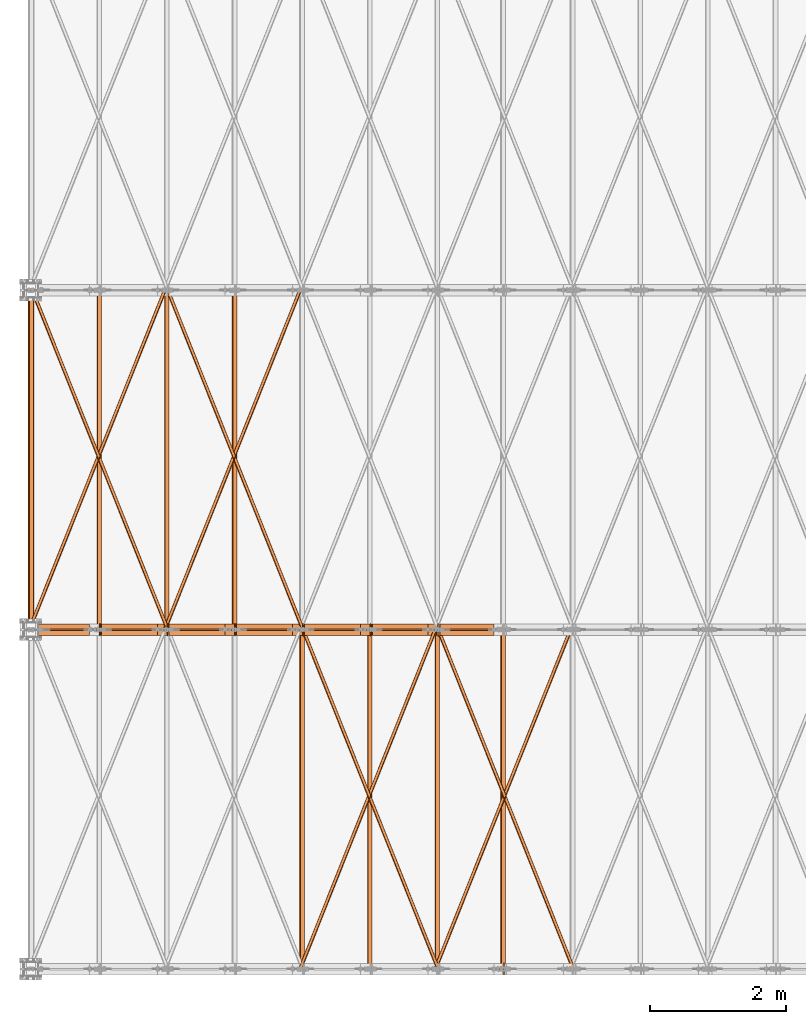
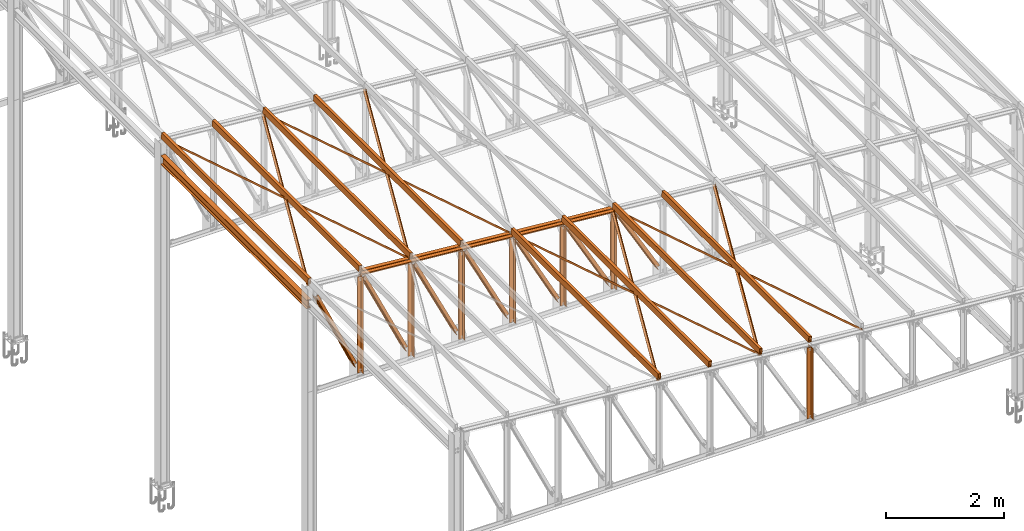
# One storey, part 232 of 251: 47 proxies.
"""IFC4 building model written with IfcOpenShell, lengths in metres."""

from ifc_helpers import new_model, si_unit, frame, frame_2d, origin_with_axes, origin_2d_with_axis, place, context, project, spatial, polyline, hollow_rectangle, i_section, l_section, outline, extrude, clip, halfspace, material, material_profile, profile_set, profile_usage, type_object, element, save


model = new_model("IFC4")

# Units and contexts
model_context = context("Model", 3, precision=1e-05, world=origin_with_axes())
ifc_project = project(units=[si_unit("LENGTHUNIT", "METRE"), si_unit("AREAUNIT", "SQUARE_METRE"), si_unit("VOLUMEUNIT", "CUBIC_METRE"), si_unit("MASSUNIT", "GRAM", prefix="KILO"), si_unit("TIMEUNIT", "SECOND"), si_unit("PLANEANGLEUNIT", "RADIAN"), si_unit("SOLIDANGLEUNIT", "STERADIAN"), si_unit("THERMODYNAMICTEMPERATUREUNIT", "DEGREE_CELSIUS")], contexts=[model_context])

# Site, building, storey
placement_1 = place(None, origin_with_axes())
site = spatial("IfcSite", under=ifc_project, at=placement_1, Name="Italia", CompositionType="ELEMENT")
building = spatial("IfcBuilding", under=site, at=placement_1, Name="Deposito", CompositionType="ELEMENT")
storey = spatial("IfcBuildingStorey", under=building, at=placement_1, Name="Storey 0", CompositionType="ELEMENT", Elevation=0.0)

# Proxies
ifc_material = material(Name="Acciaio", Category="Acciaio")
ifc_material_profile = material_profile(ifc_material, i_section(OverallWidth=0.2, OverallDepth=0.19, WebThickness=0.006, FlangeThickness=0.01, FilletRadius=0.018, at=origin_2d_with_axis()), Name="7 PILASTRO HEA200")
ifc_profile_set = profile_set([ifc_material_profile])
ifc_profile_usage_1 = profile_usage(ifc_profile_set, cardinal=1)
member_type_1 = type_object("IfcMemberType", Name="5 2L80x8", PredefinedType="MEMBER", material=ifc_profile_usage_1)
placement_2 = place(placement_1, origin_with_axes())
proxy_1_placement = place(placement_2, origin_with_axes())
element("IfcBuildingElementProxy", 1, at=proxy_1_placement, inside=storey, type_object=member_type_1, Name="7", context=model_context, shape_type="SweptSolid", body=[
    extrude(outline(polyline([(0.0, 0.0), (-0.08, 0.0), (-0.08, 0.00800037), (-0.008, 0.00800037), (-0.008, 0.0799999), (0.0, 0.0799999), (0.0, 0.0)])), frame((13.0225, -0.005, 5.06753), z_axis=(0.0, 0.0, 1.0), x_axis=(0.0, 1.0, 0.0)), (0.0, 0.0, 1.0), 1.47286),
])
ifc_profile_usage_2 = profile_usage(ifc_profile_set, cardinal=1)
member_type_2 = type_object("IfcMemberType", Name="5 2L80x8", PredefinedType="MEMBER", material=ifc_profile_usage_2)
proxy_2_placement = place(placement_2, origin_with_axes())
element("IfcBuildingElementProxy", 2, at=proxy_2_placement, inside=storey, type_object=member_type_2, Name="7", context=model_context, shape_type="SweptSolid", body=[
    extrude(outline(polyline([(0.0, 0.0), (0.008, 0.0), (0.008, -0.0719995), (0.08, -0.0719995), (0.08, -0.0799999), (0.0, -0.0799999), (0.0, 0.0)])), frame((12.9425, 0.005, 5.06753), z_axis=(0.0, 0.0, 1.0), x_axis=(0.0, 1.0, 0.0)), (0.0, 0.0, 1.0), 1.47286),
])
ifc_profile_usage_3 = profile_usage(ifc_profile_set, cardinal=1)
member_type_3 = type_object("IfcMemberType", Name="5 2L80x8", PredefinedType="MEMBER", material=ifc_profile_usage_3)
proxy_3_placement = place(placement_2, origin_with_axes())
element("IfcBuildingElementProxy", 3, at=proxy_3_placement, inside=storey, type_object=member_type_3, Name="170002", context=model_context, shape_type="SweptSolid", body=[
    extrude(outline(polyline([(0.0, 0.0), (-0.0799999, 0.0), (-0.0799999, 0.00800037), (-0.0079999, 0.00800037), (-0.0079999, 0.0799999), (0.0, 0.0799999), (0.0, 0.0)])), frame((12.0716, 4.995, 6.57981), z_axis=(0.496024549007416, 0.0, -0.868308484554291), x_axis=(0.0, 1.0, 0.0)), (0.0, 0.0, 1.0), 1.5955),
])
ifc_profile_usage_4 = profile_usage(ifc_profile_set, cardinal=1)
member_type_4 = type_object("IfcMemberType", Name="5 2L80x8", PredefinedType="MEMBER", material=ifc_profile_usage_4)
proxy_4_placement = place(placement_2, origin_with_axes())
element("IfcBuildingElementProxy", 4, at=proxy_4_placement, inside=storey, type_object=member_type_4, Name="170002", context=model_context, shape_type="SweptSolid", body=[
    extrude(outline(polyline([(0.0, 0.0), (0.0079999, 0.0), (0.0079999, -0.0719986), (0.0799999, -0.0719986), (0.0799999, -0.079999), (0.0, -0.079999), (0.0, 0.0)])), frame((12.1411, 5.005, 6.6195), z_axis=(0.496024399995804, 0.0, -0.868308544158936), x_axis=(0.0, 1.0, 0.0)), (0.0, 0.0, 1.0), 1.59551),
])
ifc_profile_usage_5 = profile_usage(ifc_profile_set, cardinal=2)
member_type_5 = type_object("IfcMemberType", Name="5 2L80x8", PredefinedType="MEMBER", material=ifc_profile_usage_5)
proxy_5_placement = place(placement_2, origin_with_axes())
element("IfcBuildingElementProxy", 5, at=proxy_5_placement, inside=storey, type_object=member_type_5, Name="230072", context=model_context, shape_type="SweptSolid", body=[
    extrude(outline(polyline([(0.0, 0.0), (0.0799999, 0.0), (0.0799999, -0.00800085), (0.0079999, -0.00800085), (0.0079999, -0.0799999), (0.0, -0.0799999), (0.0, 0.0)])), frame((7.05143, 5.005, 7.15546), z_axis=(0.996194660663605, 0.0, -0.087155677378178), x_axis=(0.0, 1.0, 0.0)), (0.0, 0.0, 1.0), 4.99498),
])
ifc_profile_usage_6 = profile_usage(ifc_profile_set, cardinal=2)
member_type_6 = type_object("IfcMemberType", Name="5 2L80x8", PredefinedType="MEMBER", material=ifc_profile_usage_6)
proxy_6_placement = place(placement_2, origin_with_axes())
element("IfcBuildingElementProxy", 6, at=proxy_6_placement, inside=storey, type_object=member_type_6, Name="230072", context=model_context, shape_type="SweptSolid", body=[
    extrude(outline(polyline([(0.0, 0.0), (-0.0079999, 0.0), (-0.0079999, 0.0719991), (-0.0799999, 0.0719991), (-0.0799999, 0.0799994), (0.0, 0.0799994), (0.0, 0.0)])), frame((7.04446, 4.995, 7.07576), z_axis=(0.99619472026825, 0.0, -0.087155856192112), x_axis=(0.0, 1.0, 0.0)), (0.0, 0.0, 1.0), 4.99498),
])
ifc_profile_usage_7 = profile_usage(ifc_profile_set, cardinal=1)
member_type_7 = type_object("IfcMemberType", Name="5 2L80x8", PredefinedType="MEMBER", material=ifc_profile_usage_7)
proxy_7_placement = place(placement_2, origin_with_axes())
element("IfcBuildingElementProxy", 7, at=proxy_7_placement, inside=storey, type_object=member_type_7, Name="24", context=model_context, shape_type="SweptSolid", body=[
    extrude(outline(polyline([(0.0, 0.0), (-0.0799999, 0.0), (-0.0799999, 0.00800037), (-0.0079999, 0.00800037), (-0.0079999, 0.0799999), (0.0, 0.0799999), (0.0, 0.0)])), frame((12.053, 4.995, 5.06753), z_axis=(0.0, 0.0, 1.0), x_axis=(0.0, 1.0, 0.0)), (0.0, 0.0, 1.0), 1.55988),
])
ifc_profile_usage_8 = profile_usage(ifc_profile_set, cardinal=1)
member_type_8 = type_object("IfcMemberType", Name="5 2L80x8", PredefinedType="MEMBER", material=ifc_profile_usage_8)
proxy_8_placement = place(placement_2, origin_with_axes())
element("IfcBuildingElementProxy", 8, at=proxy_8_placement, inside=storey, type_object=member_type_8, Name="24", context=model_context, shape_type="SweptSolid", body=[
    extrude(outline(polyline([(0.0, 0.0), (0.0079999, 0.0), (0.0079999, -0.0719995), (0.0799999, -0.0719995), (0.0799999, -0.0799999), (0.0, -0.0799999), (0.0, 0.0)])), frame((11.973, 5.005, 5.06753), z_axis=(0.0, 0.0, 1.0), x_axis=(0.0, 1.0, 0.0)), (0.0, 0.0, 1.0), 1.55988),
])
ifc_profile_usage_9 = profile_usage(ifc_profile_set, cardinal=1)
member_type_9 = type_object("IfcMemberType", Name="5 2L80x8", PredefinedType="MEMBER", material=ifc_profile_usage_9)
proxy_9_placement = place(placement_2, origin_with_axes())
element("IfcBuildingElementProxy", 9, at=proxy_9_placement, inside=storey, type_object=member_type_9, Name="180002", context=model_context, shape_type="SweptSolid", body=[
    extrude(outline(polyline([(0.0, 0.0), (-0.0799999, 0.0), (-0.0799999, 0.00799942), (-0.0079999, 0.00799942), (-0.0079999, 0.0799999), (0.0, 0.0799999), (0.0, 0.0)])), frame((11.0734, 4.995, 6.66808), z_axis=(0.487459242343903, 0.0, -0.873145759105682), x_axis=(0.0, 1.0, 0.0)), (0.0, 0.0, 1.0), 1.68149),
])
ifc_profile_usage_10 = profile_usage(ifc_profile_set, cardinal=1)
member_type_10 = type_object("IfcMemberType", Name="5 2L80x8", PredefinedType="MEMBER", material=ifc_profile_usage_10)
proxy_10_placement = place(placement_2, origin_with_axes())
element("IfcBuildingElementProxy", 10, at=proxy_10_placement, inside=storey, type_object=member_type_10, Name="180002", context=model_context, shape_type="SweptSolid", body=[
    extrude(outline(polyline([(0.0, 0.0), (0.0079999, 0.0), (0.0079999, -0.0719986), (0.0799999, -0.0719986), (0.0799999, -0.079998), (0.0, -0.079998), (0.0, 0.0)])), frame((11.1433, 5.005, 6.70707), z_axis=(0.487459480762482, 0.0, -0.873145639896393), x_axis=(0.0, 1.0, 0.0)), (0.0, 0.0, 1.0), 1.68149),
])
ifc_profile_usage_11 = profile_usage(ifc_profile_set, cardinal=1)
member_type_11 = type_object("IfcMemberType", Name="5 2L80x8", PredefinedType="MEMBER", material=ifc_profile_usage_11)
proxy_11_placement = place(placement_2, origin_with_axes())
element("IfcBuildingElementProxy", 11, at=proxy_11_placement, inside=storey, type_object=member_type_11, Name="23", context=model_context, shape_type="SweptSolid", body=[
    extrude(outline(polyline([(0.0, 0.0), (-0.0799999, 0.0), (-0.0799999, 0.00800037), (-0.0079999, 0.00800037), (-0.0079999, 0.0799999), (0.0, 0.0799999), (0.0, 0.0)])), frame((11.0568, 4.995, 5.06753), z_axis=(0.0, 0.0, 1.0), x_axis=(0.0, 1.0, 0.0)), (0.0, 0.0, 1.0), 1.64711),
])
ifc_profile_usage_12 = profile_usage(ifc_profile_set, cardinal=1)
member_type_12 = type_object("IfcMemberType", Name="5 2L80x8", PredefinedType="MEMBER", material=ifc_profile_usage_12)
proxy_12_placement = place(placement_2, origin_with_axes())
element("IfcBuildingElementProxy", 12, at=proxy_12_placement, inside=storey, type_object=member_type_12, Name="23", context=model_context, shape_type="SweptSolid", body=[
    extrude(outline(polyline([(0.0, 0.0), (0.0079999, 0.0), (0.0079999, -0.0719995), (0.0799999, -0.0719995), (0.0799999, -0.0799999), (0.0, -0.0799999), (0.0, 0.0)])), frame((10.9768, 5.005, 5.06753), z_axis=(0.0, 0.0, 1.0), x_axis=(0.0, 1.0, 0.0)), (0.0, 0.0, 1.0), 1.64711),
])
ifc_profile_usage_13 = profile_usage(ifc_profile_set, cardinal=1)
member_type_13 = type_object("IfcMemberType", Name="5 2L80x8", PredefinedType="MEMBER", material=ifc_profile_usage_13)
proxy_13_placement = place(placement_2, origin_with_axes())
element("IfcBuildingElementProxy", 13, at=proxy_13_placement, inside=storey, type_object=member_type_13, Name="190002", context=model_context, shape_type="SweptSolid", body=[
    extrude(outline(polyline([(0.0, 0.0), (-0.0799999, 0.0), (-0.0799999, 0.00799942), (-0.0079999, 0.00799942), (-0.0079999, 0.0799999), (0.0, 0.0799999), (0.0, 0.0)])), frame((10.0736, 4.995, 6.75689), z_axis=(0.469864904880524, 0.0, -0.882738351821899), x_axis=(0.0, 1.0, 0.0)), (0.0, 0.0, 1.0), 1.75054),
])
ifc_profile_usage_14 = profile_usage(ifc_profile_set, cardinal=1)
member_type_14 = type_object("IfcMemberType", Name="5 2L80x8", PredefinedType="MEMBER", material=ifc_profile_usage_14)
proxy_14_placement = place(placement_2, origin_with_axes())
element("IfcBuildingElementProxy", 14, at=proxy_14_placement, inside=storey, type_object=member_type_14, Name="190002", context=model_context, shape_type="SweptSolid", body=[
    extrude(outline(polyline([(0.0, 0.0), (0.0079999, 0.0), (0.0079999, -0.0720005), (0.0799999, -0.0720005), (0.0799999, -0.0799999), (0.0, -0.0799999), (0.0, 0.0)])), frame((10.1442, 5.005, 6.79448), z_axis=(0.469864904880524, 0.0, -0.882738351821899), x_axis=(0.0, 1.0, 0.0)), (0.0, 0.0, 1.0), 1.75054),
])
ifc_profile_usage_15 = profile_usage(ifc_profile_set, cardinal=1)
member_type_15 = type_object("IfcMemberType", Name="5 2L80x8", PredefinedType="MEMBER", material=ifc_profile_usage_15)
proxy_15_placement = place(placement_2, origin_with_axes())
element("IfcBuildingElementProxy", 15, at=proxy_15_placement, inside=storey, type_object=member_type_15, Name="22", context=model_context, shape_type="SweptSolid", body=[
    extrude(outline(polyline([(0.0, 0.0), (-0.0799999, 0.0), (-0.0799999, 0.00800037), (-0.0079999, 0.00800037), (-0.0079999, 0.0799999), (0.0, 0.0799999), (0.0, 0.0)])), frame((10.0606, 4.995, 5.06753), z_axis=(0.0, 0.0, 1.0), x_axis=(0.0, 1.0, 0.0)), (0.0, 0.0, 1.0), 1.73426),
])
ifc_profile_usage_16 = profile_usage(ifc_profile_set, cardinal=1)
member_type_16 = type_object("IfcMemberType", Name="5 2L80x8", PredefinedType="MEMBER", material=ifc_profile_usage_16)
proxy_16_placement = place(placement_2, origin_with_axes())
element("IfcBuildingElementProxy", 16, at=proxy_16_placement, inside=storey, type_object=member_type_16, Name="22", context=model_context, shape_type="SweptSolid", body=[
    extrude(outline(polyline([(0.0, 0.0), (0.0079999, 0.0), (0.0079999, -0.0719995), (0.0799999, -0.0719995), (0.0799999, -0.0799999), (0.0, -0.0799999), (0.0, 0.0)])), frame((9.98057, 5.005, 5.06753), z_axis=(0.0, 0.0, 1.0), x_axis=(0.0, 1.0, 0.0)), (0.0, 0.0, 1.0), 1.73426),
])
ifc_profile_usage_17 = profile_usage(ifc_profile_set, cardinal=1)
member_type_17 = type_object("IfcMemberType", Name="5 2L80x8", PredefinedType="MEMBER", material=ifc_profile_usage_17)
proxy_17_placement = place(placement_2, origin_with_axes())
element("IfcBuildingElementProxy", 17, at=proxy_17_placement, inside=storey, type_object=member_type_17, Name="200002", context=model_context, shape_type="SweptSolid", body=[
    extrude(outline(polyline([(0.0, 0.0), (-0.0799999, 0.0), (-0.0799999, 0.00800133), (-0.0079999, 0.00800133), (-0.0079999, 0.0799999), (0.0, 0.0799999), (0.0, 0.0)])), frame((9.07443, 4.995, 6.84501), z_axis=(0.453332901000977, 0.0, -0.891341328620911), x_axis=(0.0, 1.0, 0.0)), (0.0, 0.0, 1.0), 1.81939),
])
ifc_profile_usage_18 = profile_usage(ifc_profile_set, cardinal=1)
member_type_18 = type_object("IfcMemberType", Name="5 2L80x8", PredefinedType="MEMBER", material=ifc_profile_usage_18)
proxy_18_placement = place(placement_2, origin_with_axes())
element("IfcBuildingElementProxy", 18, at=proxy_18_placement, inside=storey, type_object=member_type_18, Name="200002", context=model_context, shape_type="SweptSolid", body=[
    extrude(outline(polyline([(0.0, 0.0), (0.0079999, 0.0), (0.0079999, -0.0719986), (0.0799999, -0.0719986), (0.0799999, -0.079999), (0.0, -0.079999), (0.0, 0.0)])), frame((9.14573, 5.005, 6.88128), z_axis=(0.453332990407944, 0.0, -0.891341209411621), x_axis=(0.0, 1.0, 0.0)), (0.0, 0.0, 1.0), 1.81938),
])
ifc_profile_usage_19 = profile_usage(ifc_profile_set, cardinal=1)
member_type_19 = type_object("IfcMemberType", Name="5 2L80x8", PredefinedType="MEMBER", material=ifc_profile_usage_19)
proxy_19_placement = place(placement_2, origin_with_axes())
element("IfcBuildingElementProxy", 19, at=proxy_19_placement, inside=storey, type_object=member_type_19, Name="21", context=model_context, shape_type="SweptSolid", body=[
    extrude(outline(polyline([(0.0, 0.0), (-0.0799999, 0.0), (-0.0799999, 0.00800037), (-0.0079999, 0.00800037), (-0.0079999, 0.0799999), (0.0, 0.0799999), (0.0, 0.0)])), frame((9.06438, 4.995, 5.06753), z_axis=(0.0, 0.0, 1.0), x_axis=(0.0, 1.0, 0.0)), (0.0, 0.0, 1.0), 1.82142),
])
ifc_profile_usage_20 = profile_usage(ifc_profile_set, cardinal=1)
member_type_20 = type_object("IfcMemberType", Name="5 2L80x8", PredefinedType="MEMBER", material=ifc_profile_usage_20)
proxy_20_placement = place(placement_2, origin_with_axes())
element("IfcBuildingElementProxy", 20, at=proxy_20_placement, inside=storey, type_object=member_type_20, Name="21", context=model_context, shape_type="SweptSolid", body=[
    extrude(outline(polyline([(0.0, 0.0), (0.0079999, 0.0), (0.0079999, -0.0719995), (0.0799999, -0.0719995), (0.0799999, -0.0799999), (0.0, -0.0799999), (0.0, 0.0)])), frame((8.98438, 5.005, 5.06753), z_axis=(0.0, 0.0, 1.0), x_axis=(0.0, 1.0, 0.0)), (0.0, 0.0, 1.0), 1.82142),
])
ifc_profile_usage_21 = profile_usage(ifc_profile_set, cardinal=1)
member_type_21 = type_object("IfcMemberType", Name="5 2L80x8", PredefinedType="MEMBER", material=ifc_profile_usage_21)
proxy_21_placement = place(placement_2, origin_with_axes())
element("IfcBuildingElementProxy", 21, at=proxy_21_placement, inside=storey, type_object=member_type_21, Name="210002", context=model_context, shape_type="SweptSolid", body=[
    extrude(outline(polyline([(0.0, 0.0), (-0.0799999, 0.0), (-0.0799999, 0.00799942), (-0.0079999, 0.00799942), (-0.0079999, 0.0799999), (0.0, 0.0799999), (0.0, 0.0)])), frame((8.07823, 4.995, 6.92755), z_axis=(0.437787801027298, 0.0, -0.89907830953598), x_axis=(0.0, 1.0, 0.0)), (0.0, 0.0, 1.0), 1.88258),
])
ifc_profile_usage_22 = profile_usage(ifc_profile_set, cardinal=1)
member_type_22 = type_object("IfcMemberType", Name="5 2L80x8", PredefinedType="MEMBER", material=ifc_profile_usage_22)
proxy_22_placement = place(placement_2, origin_with_axes())
element("IfcBuildingElementProxy", 22, at=proxy_22_placement, inside=storey, type_object=member_type_22, Name="210002", context=model_context, shape_type="SweptSolid", body=[
    extrude(outline(polyline([(0.0, 0.0), (0.0079999, 0.0), (0.0079999, -0.0719995), (0.0799999, -0.0719995), (0.0799999, -0.0799999), (0.0, -0.0799999), (0.0, 0.0)])), frame((8.15016, 5.005, 6.96258), z_axis=(0.437788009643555, 0.0, -0.899078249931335), x_axis=(0.0, 1.0, 0.0)), (0.0, 0.0, 1.0), 1.88258),
])
ifc_profile_usage_23 = profile_usage(ifc_profile_set, cardinal=1)
member_type_23 = type_object("IfcMemberType", Name="5 2L80x8", PredefinedType="MEMBER", material=ifc_profile_usage_23)
proxy_23_placement = place(placement_2, origin_with_axes())
element("IfcBuildingElementProxy", 23, at=proxy_23_placement, inside=storey, type_object=member_type_23, Name="20", context=model_context, shape_type="SweptSolid", body=[
    extrude(outline(polyline([(0.0, 0.0), (-0.0799999, 0.0), (-0.0799999, 0.00800037), (-0.0079999, 0.00800037), (-0.0079999, 0.0800004), (0.0, 0.0800004), (0.0, 0.0)])), frame((8.06818, 4.995, 5.06753), z_axis=(0.0, 0.0, 1.0), x_axis=(0.0, 1.0, 0.0)), (0.0, 0.0, 1.0), 1.90857),
])
ifc_profile_usage_24 = profile_usage(ifc_profile_set, cardinal=1)
member_type_24 = type_object("IfcMemberType", Name="5 2L80x8", PredefinedType="MEMBER", material=ifc_profile_usage_24)
proxy_24_placement = place(placement_2, origin_with_axes())
element("IfcBuildingElementProxy", 24, at=proxy_24_placement, inside=storey, type_object=member_type_24, Name="20", context=model_context, shape_type="SweptSolid", body=[
    extrude(outline(polyline([(0.0, 0.0), (0.0079999, 0.0), (0.0079999, -0.072), (0.0799999, -0.072), (0.0799999, -0.0800004), (0.0, -0.0800004), (0.0, 0.0)])), frame((7.98818, 5.005, 5.06753), z_axis=(0.0, 0.0, 1.0), x_axis=(0.0, 1.0, 0.0)), (0.0, 0.0, 1.0), 1.90857),
])
ifc_profile_usage_25 = profile_usage(ifc_profile_set, cardinal=1)
member_type_25 = type_object("IfcMemberType", Name="5 2L80x8", PredefinedType="MEMBER", material=ifc_profile_usage_25)
proxy_25_placement = place(placement_2, origin_with_axes())
element("IfcBuildingElementProxy", 25, at=proxy_25_placement, inside=storey, type_object=member_type_25, Name="220002", context=model_context, shape_type="SweptSolid", body=[
    extrude(outline(polyline([(0.0, 0.0), (-0.0799999, 0.0), (-0.0799999, 0.00800037), (-0.0079999, 0.00800037), (-0.0079999, 0.0800009), (0.0, 0.0800009), (0.0, 0.0)])), frame((7.08204, 4.995, 7.01008), z_axis=(0.423158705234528, 0.0, -0.906055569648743), x_axis=(0.0, 1.0, 0.0)), (0.0, 0.0, 1.0), 1.94634),
])
ifc_profile_usage_26 = profile_usage(ifc_profile_set, cardinal=1)
member_type_26 = type_object("IfcMemberType", Name="5 2L80x8", PredefinedType="MEMBER", material=ifc_profile_usage_26)
proxy_26_placement = place(placement_2, origin_with_axes())
element("IfcBuildingElementProxy", 26, at=proxy_26_placement, inside=storey, type_object=member_type_26, Name="220002", context=model_context, shape_type="SweptSolid", body=[
    extrude(outline(polyline([(0.0, 0.0), (0.0079999, 0.0), (0.0079999, -0.0720005), (0.0799999, -0.0720005), (0.0799999, -0.0800009), (0.0, -0.0800009), (0.0, 0.0)])), frame((7.15452, 5.005, 7.04394), z_axis=(0.423158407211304, 0.0, -0.906055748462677), x_axis=(0.0, 1.0, 0.0)), (0.0, 0.0, 1.0), 1.94634),
])
ifc_profile_usage_27 = profile_usage(ifc_profile_set, cardinal=1)
member_type_27 = type_object("IfcMemberType", Name="5 2L80x8", PredefinedType="MEMBER", material=ifc_profile_usage_27)
proxy_27_placement = place(placement_2, origin_with_axes())
element("IfcBuildingElementProxy", 27, at=proxy_27_placement, inside=storey, type_object=member_type_27, Name="19", context=model_context, shape_type="SweptSolid", body=[
    extrude(outline(polyline([(0.0, 0.0), (-0.0799999, 0.0), (-0.0799999, 0.0079999), (-0.0079999, 0.0079999), (-0.0079999, 0.0799999), (0.0, 0.0799999), (0.0, 0.0)])), frame((7.07199, 4.995, 5.06753), z_axis=(0.0, 0.0, 1.0), x_axis=(0.0, 1.0, 0.0)), (0.0, 0.0, 1.0), 1.99573),
])
ifc_profile_usage_28 = profile_usage(ifc_profile_set, cardinal=1)
member_type_28 = type_object("IfcMemberType", Name="5 2L80x8", PredefinedType="MEMBER", material=ifc_profile_usage_28)
proxy_28_placement = place(placement_2, origin_with_axes())
element("IfcBuildingElementProxy", 28, at=proxy_28_placement, inside=storey, type_object=member_type_28, Name="19", context=model_context, shape_type="SweptSolid", body=[
    extrude(outline(polyline([(0.0, 0.0), (0.0079999, 0.0), (0.0079999, -0.072), (0.0799999, -0.072), (0.0799999, -0.0799999), (0.0, -0.0799999), (0.0, 0.0)])), frame((6.99199, 5.005, 5.06753), z_axis=(0.0, 0.0, 1.0), x_axis=(0.0, 1.0, 0.0)), (0.0, 0.0, 1.0), 1.99573),
])
ifc_profile_usage_29 = profile_usage(ifc_profile_set, cardinal=1)
member_type_29 = type_object("IfcMemberType", Name="5 2L80x8", PredefinedType="MEMBER", material=ifc_profile_usage_29)
proxy_29_placement = place(placement_2, origin_with_axes())
element("IfcBuildingElementProxy", 29, at=proxy_29_placement, inside=storey, type_object=member_type_29, Name="230002", context=model_context, shape_type="SweptSolid", body=[
    extrude(outline(polyline([(0.0, 0.0), (-0.0799999, 0.0), (-0.0799999, 0.00799942), (-0.0079999, 0.00799942), (-0.0079999, 0.079999), (0.0, 0.079999), (0.0, 0.0)])), frame((6.15505, 4.995, 6.93198), z_axis=(0.410496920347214, 0.0, -0.911861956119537), x_axis=(0.0, 1.0, 0.0)), (0.0, 0.0, 1.0), 1.83665),
])
ifc_profile_usage_30 = profile_usage(ifc_profile_set, cardinal=1)
member_type_30 = type_object("IfcMemberType", Name="5 2L80x8", PredefinedType="MEMBER", material=ifc_profile_usage_30)
proxy_30_placement = place(placement_2, origin_with_axes())
element("IfcBuildingElementProxy", 30, at=proxy_30_placement, inside=storey, type_object=member_type_30, Name="230002", context=model_context, shape_type="SweptSolid", body=[
    extrude(outline(polyline([(0.0, 0.0), (0.0079999, 0.0), (0.0079999, -0.0719995), (0.0799999, -0.0719995), (0.0799999, -0.0799999), (0.0, -0.0799999), (0.0, 0.0)])), frame((6.228, 5.005, 6.96482), z_axis=(0.410497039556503, 0.0, -0.911861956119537), x_axis=(0.0, 1.0, 0.0)), (0.0, 0.0, 1.0), 1.83665),
])
ifc_profile_usage_31 = profile_usage(ifc_profile_set, cardinal=8)
member_type_31 = type_object("IfcMemberType", Name="1 RHS120x60x8", PredefinedType="MEMBER", material=ifc_profile_usage_31)
proxy_31_placement = place(placement_2, origin_with_axes())
element("IfcBuildingElementProxy", 31, at=proxy_31_placement, inside=storey, type_object=member_type_31, Name="210021", context=model_context, shape_type="SweptSolid", body=[
    extrude(hollow_rectangle(XDim=0.06, YDim=0.12, WallThickness=0.008, at=frame_2d((0.0, 0.0), x_axis=(0.996194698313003, 0.087155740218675))), frame((8.05286, 5.0, 7.1281), z_axis=(0.0, 1.0, 0.0), x_axis=(-1.0, 0.0, 0.0)), (0.0, 0.0, 1.0), 5.0),
])
ifc_profile_usage_32 = profile_usage(ifc_profile_set, cardinal=8)
member_type_32 = type_object("IfcMemberType", Name="1 RHS120x60x8", PredefinedType="MEMBER", material=ifc_profile_usage_32)
proxy_32_placement = place(placement_2, origin_with_axes())
element("IfcBuildingElementProxy", 32, at=proxy_32_placement, inside=storey, type_object=member_type_32, Name="230019", context=model_context, shape_type="SweptSolid", body=[
    extrude(hollow_rectangle(XDim=0.06, YDim=0.12, WallThickness=0.008, at=frame_2d((0.0, 0.0), x_axis=(0.996194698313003, 0.087155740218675))), frame((6.05719, 5.0, 7.30242), z_axis=(0.0, 1.0, 0.0), x_axis=(-1.0, 0.0, 0.0)), (0.0, 0.0, 1.0), 5.0),
])
ifc_profile_usage_33 = profile_usage(ifc_profile_set, cardinal=8)
member_type_33 = type_object("IfcMemberType", Name="1 RHS120x60x8", PredefinedType="MEMBER", material=ifc_profile_usage_33)
proxy_33_placement = place(placement_2, origin_with_axes())
element("IfcBuildingElementProxy", 33, at=proxy_33_placement, inside=storey, type_object=member_type_33, Name="190024", context=model_context, shape_type="SweptSolid", body=[
    extrude(hollow_rectangle(XDim=0.06, YDim=0.12, WallThickness=0.008, at=frame_2d((0.0, 0.0), x_axis=(0.996194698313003, 0.087155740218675))), frame((10.0452, 0.0, 6.95379), z_axis=(0.0, 1.0, 0.0), x_axis=(-1.0, 0.0, 0.0)), (0.0, 0.0, 1.0), 5.0),
])
ifc_profile_usage_34 = profile_usage(ifc_profile_set, cardinal=8)
member_type_34 = type_object("IfcMemberType", Name="1 RHS120x60x8", PredefinedType="MEMBER", material=ifc_profile_usage_34)
proxy_34_placement = place(placement_2, origin_with_axes())
element("IfcBuildingElementProxy", 34, at=proxy_34_placement, inside=storey, type_object=member_type_34, Name="170027", context=model_context, shape_type="SweptSolid", body=[
    extrude(hollow_rectangle(XDim=0.06, YDim=0.12, WallThickness=0.008, at=frame_2d((0.0, 0.0), x_axis=(0.996194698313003, 0.087155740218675))), frame((12.0376, 0.0, 6.77948), z_axis=(0.0, 1.0, 0.0), x_axis=(-1.0, 0.0, 0.0)), (0.0, 0.0, 1.0), 5.0),
])
ifc_profile_usage_35 = profile_usage(ifc_profile_set, cardinal=8)
member_type_35 = type_object("IfcMemberType", Name="1 RHS120x60x8", PredefinedType="MEMBER", material=ifc_profile_usage_35)
proxy_35_placement = place(placement_2, origin_with_axes())
element("IfcBuildingElementProxy", 35, at=proxy_35_placement, inside=storey, type_object=member_type_35, Name="220020", context=model_context, shape_type="SweptSolid", body=[
    extrude(hollow_rectangle(XDim=0.06, YDim=0.12, WallThickness=0.008, at=frame_2d((0.0, 0.0), x_axis=(0.996194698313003, 0.087155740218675))), frame((7.05666, 5.0, 7.21526), z_axis=(0.0, 1.0, 0.0), x_axis=(-1.0, 0.0, 0.0)), (0.0, 0.0, 1.0), 5.0),
])
ifc_profile_usage_36 = profile_usage(ifc_profile_set, cardinal=8)
member_type_36 = type_object("IfcMemberType", Name="1 RHS120x60x8", PredefinedType="MEMBER", material=ifc_profile_usage_36)
proxy_36_placement = place(placement_2, origin_with_axes())
element("IfcBuildingElementProxy", 36, at=proxy_36_placement, inside=storey, type_object=member_type_36, Name="200023", context=model_context, shape_type="SweptSolid", body=[
    extrude(hollow_rectangle(XDim=0.06, YDim=0.12, WallThickness=0.008, at=frame_2d((0.0, 0.0), x_axis=(0.996194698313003, 0.087155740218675))), frame((9.04905, 5.0, 7.04095), z_axis=(0.0, 1.0, 0.0), x_axis=(-1.0, 0.0, 0.0)), (0.0, 0.0, 1.0), 5.0),
])
ifc_profile_usage_37 = profile_usage(ifc_profile_set, cardinal=8)
member_type_37 = type_object("IfcMemberType", Name="1 RHS120x60x8", PredefinedType="MEMBER", material=ifc_profile_usage_37)
proxy_37_placement = place(placement_2, origin_with_axes())
element("IfcBuildingElementProxy", 37, at=proxy_37_placement, inside=storey, type_object=member_type_37, Name="180026", context=model_context, shape_type="SweptSolid", body=[
    extrude(hollow_rectangle(XDim=0.06, YDim=0.12, WallThickness=0.008, at=frame_2d((0.0, 0.0), x_axis=(0.996194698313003, 0.087155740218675))), frame((11.0414, 0.0, 6.86664), z_axis=(0.0, 1.0, 0.0), x_axis=(-1.0, 0.0, 0.0)), (0.0, 0.0, 1.0), 5.0),
])
ifc_profile_usage_38 = profile_usage(ifc_profile_set, cardinal=8)
member_type_38 = type_object("IfcMemberType", Name="1 RHS120x60x8", PredefinedType="MEMBER", material=ifc_profile_usage_38)
proxy_38_placement = place(placement_2, origin_with_axes())
element("IfcBuildingElementProxy", 38, at=proxy_38_placement, inside=storey, type_object=member_type_38, Name="160028", context=model_context, shape_type="SweptSolid", body=[
    extrude(hollow_rectangle(XDim=0.06, YDim=0.12, WallThickness=0.008, at=frame_2d((0.0, 0.0), x_axis=(0.996194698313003, 0.087155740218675))), frame((13.0072, 0.0, 6.69233), z_axis=(0.0, 1.0, 0.0), x_axis=(-1.0, 0.0, 0.0)), (0.0, 0.0, 1.0), 5.0),
])
ifc_profile_usage_39 = profile_usage(ifc_profile_set, cardinal=5)
member_type_39 = type_object("IfcMemberType", Name="9 ARCARECCI IPE180", PredefinedType="MEMBER", material=ifc_profile_usage_39)
proxy_39_placement = place(placement_2, frame((6.049999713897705, 2.5, 6.820181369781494), z_axis=(0.0, 0.0, 1.0), x_axis=(1.0, 0.0, 0.0)))
element("IfcBuildingElementProxy", 39, at=proxy_39_placement, inside=storey, type_object=member_type_39, Name="280019", context=model_context, shape_type="Clipping", body=[
    clip(clip(extrude(i_section(OverallWidth=0.091, OverallDepth=0.18, WebThickness=0.0053, FlangeThickness=0.008, FilletRadius=0.009, at=origin_2d_with_axis()), frame((0.0, 0.0, 0.0), z_axis=(0.0, 1.0, 0.0), x_axis=(-1.0, 0.0, 0.0)), (0.0, 0.0, 1.0), 10.0), halfspace(frame((0.0, 2.518, 0.0), z_axis=(0.0, -1.0, 0.0), x_axis=(1.0, 0.0, 0.0)), False)), halfspace(frame((0.0, 7.482, 0.0), z_axis=(0.0, -1.0, 0.0), x_axis=(1.0, 0.0, 0.0)), True)),
])
ifc_profile_usage_40 = profile_usage(ifc_profile_set, cardinal=5)
member_type_40 = type_object("IfcMemberType", Name="11 CONTROVENTI COPERTURA L50x5", PredefinedType="MEMBER", material=ifc_profile_usage_40)
proxy_40_placement = place(placement_2, origin_with_axes())
element("IfcBuildingElementProxy", 40, at=proxy_40_placement, inside=storey, type_object=member_type_40, Name="250046", context=model_context, shape_type="SweptSolid", body=[
    extrude(l_section(Depth=0.05, Width=0.05, Thickness=0.005, FilletRadius=0.007, EdgeRadius=0.0035, at=origin_2d_with_axis()), frame((6.06855, 10.0068, 7.24017), z_axis=(0.370502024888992, -0.92826771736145, -0.032361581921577), x_axis=(0.928754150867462, 0.370696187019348, 0.0)), (0.0, 0.0, 1.0), 5.38638),
])
ifc_profile_usage_41 = profile_usage(ifc_profile_set, cardinal=5)
member_type_41 = type_object("IfcMemberType", Name="11 CONTROVENTI COPERTURA L50x5", PredefinedType="MEMBER", material=ifc_profile_usage_41)
proxy_41_placement = place(placement_2, origin_with_axes())
element("IfcBuildingElementProxy", 41, at=proxy_41_placement, inside=storey, type_object=member_type_41, Name="230047", context=model_context, shape_type="SweptSolid", body=[
    extrude(l_section(Depth=0.05, Width=0.05, Thickness=0.005, FilletRadius=0.007, EdgeRadius=0.0035, at=origin_2d_with_axis()), frame((8.02732, 5.00733, 7.06586), z_axis=(0.369977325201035, 0.928476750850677, -0.032368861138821), x_axis=(-0.928963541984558, 0.370171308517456, 0.0)), (0.0, 0.0, 1.0), 5.38516),
])
ifc_profile_usage_42 = profile_usage(ifc_profile_set, cardinal=5)
member_type_42 = type_object("IfcMemberType", Name="11 CONTROVENTI COPERTURA L50x5", PredefinedType="MEMBER", material=ifc_profile_usage_42)
proxy_42_placement = place(placement_2, origin_with_axes())
element("IfcBuildingElementProxy", 42, at=proxy_42_placement, inside=storey, type_object=member_type_42, Name="170052", context=model_context, shape_type="SweptSolid", body=[
    extrude(l_section(Depth=0.05, Width=0.05, Thickness=0.005, FilletRadius=0.007, EdgeRadius=0.0035, at=origin_2d_with_axis()), frame((12.0121, 0.00732826, 6.71724), z_axis=(0.369977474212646, 0.928476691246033, -0.03236885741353), x_axis=(-0.928963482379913, 0.370171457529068, 0.0)), (0.0, 0.0, 1.0), 5.38516),
])
ifc_profile_usage_43 = profile_usage(ifc_profile_set, cardinal=5)
member_type_43 = type_object("IfcMemberType", Name="11 CONTROVENTI COPERTURA L50x5", PredefinedType="MEMBER", material=ifc_profile_usage_43)
proxy_43_placement = place(placement_2, origin_with_axes())
element("IfcBuildingElementProxy", 43, at=proxy_43_placement, inside=storey, type_object=member_type_43, Name="250054", context=model_context, shape_type="SweptSolid", body=[
    extrude(l_section(Depth=0.05, Width=0.05, Thickness=0.005, FilletRadius=0.007, EdgeRadius=0.0035, at=origin_2d_with_axis()), frame((10.0566, 5.0068, 6.89155), z_axis=(0.369977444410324, -0.928476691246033, -0.032368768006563), x_axis=(0.928963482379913, 0.370171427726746, 0.0)), (0.0, 0.0, 1.0), 5.38517),
])
ifc_profile_usage_44 = profile_usage(ifc_profile_set, cardinal=5)
member_type_44 = type_object("IfcMemberType", Name="11 CONTROVENTI COPERTURA L50x5", PredefinedType="MEMBER", material=ifc_profile_usage_44)
proxy_44_placement = place(placement_2, origin_with_axes())
element("IfcBuildingElementProxy", 44, at=proxy_44_placement, inside=storey, type_object=member_type_44, Name="230049", context=model_context, shape_type="SweptSolid", body=[
    extrude(l_section(Depth=0.05, Width=0.05, Thickness=0.005, FilletRadius=0.007, EdgeRadius=0.0035, at=origin_2d_with_axis()), frame((12.049, 5.0068, 6.71724), z_axis=(0.369977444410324, -0.928476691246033, -0.03236885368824), x_axis=(0.928963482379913, 0.370171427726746, 0.0)), (0.0, 0.0, 1.0), 5.38517),
])
ifc_profile_usage_45 = profile_usage(ifc_profile_set, cardinal=5)
member_type_45 = type_object("IfcMemberType", Name="11 CONTROVENTI COPERTURA L50x5", PredefinedType="MEMBER", material=ifc_profile_usage_45)
proxy_45_placement = place(placement_2, origin_with_axes())
element("IfcBuildingElementProxy", 45, at=proxy_45_placement, inside=storey, type_object=member_type_45, Name="190055", context=model_context, shape_type="SweptSolid", body=[
    extrude(l_section(Depth=0.05, Width=0.05, Thickness=0.005, FilletRadius=0.007, EdgeRadius=0.0035, at=origin_2d_with_axis()), frame((10.0197, 0.00732826, 6.89155), z_axis=(0.369977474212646, 0.928476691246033, -0.032368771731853), x_axis=(-0.928963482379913, 0.370171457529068, 0.0)), (0.0, 0.0, 1.0), 5.38516),
])
ifc_profile_usage_46 = profile_usage(ifc_profile_set, cardinal=5)
member_type_46 = type_object("IfcMemberType", Name="11 CONTROVENTI COPERTURA L50x5", PredefinedType="MEMBER", material=ifc_profile_usage_46)
proxy_46_placement = place(placement_2, origin_with_axes())
element("IfcBuildingElementProxy", 46, at=proxy_46_placement, inside=storey, type_object=member_type_46, Name="250054", context=model_context, shape_type="SweptSolid", body=[
    extrude(l_section(Depth=0.05, Width=0.05, Thickness=0.005, FilletRadius=0.007, EdgeRadius=0.0035, at=origin_2d_with_axis()), frame((8.06421, 10.0068, 7.06586), z_axis=(0.369977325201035, -0.928476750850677, -0.032368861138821), x_axis=(0.928963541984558, 0.370171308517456, 0.0)), (0.0, 0.0, 1.0), 5.38516),
])
ifc_profile_usage_47 = profile_usage(ifc_profile_set, cardinal=5)
member_type_47 = type_object("IfcMemberType", Name="11 CONTROVENTI COPERTURA L50x5", PredefinedType="MEMBER", material=ifc_profile_usage_47)
proxy_47_placement = place(placement_2, origin_with_axes())
element("IfcBuildingElementProxy", 47, at=proxy_47_placement, inside=storey, type_object=member_type_47, Name="230053", context=model_context, shape_type="SweptSolid", body=[
    extrude(l_section(Depth=0.05, Width=0.05, Thickness=0.005, FilletRadius=0.007, EdgeRadius=0.0035, at=origin_2d_with_axis()), frame((6.03166, 5.00734, 7.24017), z_axis=(0.37050199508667, 0.92826771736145, -0.032361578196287), x_axis=(-0.928754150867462, 0.370696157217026, 0.0)), (0.0, 0.0, 1.0), 5.38638),
])

save(model, "model.ifc")
